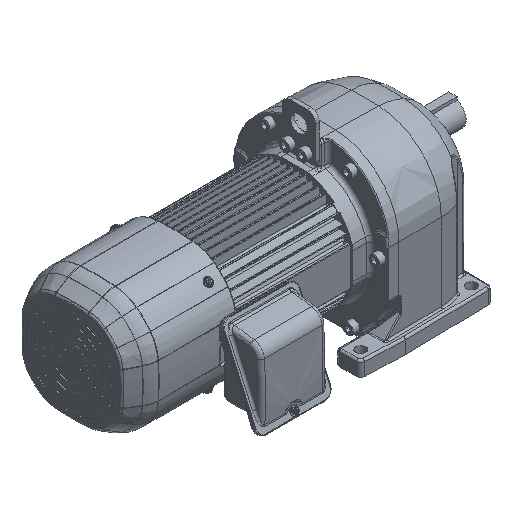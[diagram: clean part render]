
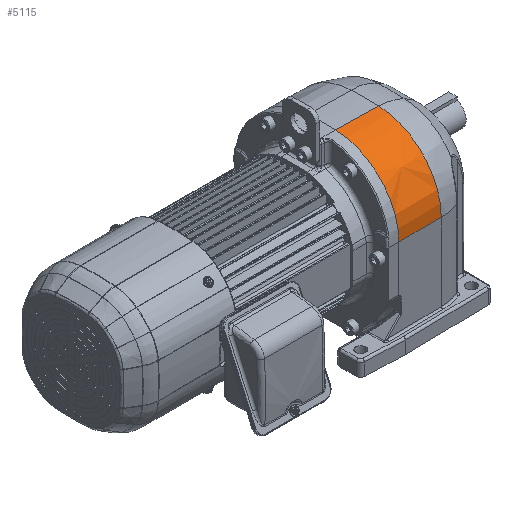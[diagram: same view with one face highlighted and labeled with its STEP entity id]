
A CAD part, isometric view. The second image highlights one B-rep face of the part: STEP entity #5115.
In plain terms, the highlighted free-form (B-spline) face has degree [3, 2] with [12, 3] control points.
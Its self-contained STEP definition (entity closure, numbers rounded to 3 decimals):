
#5115 = ADVANCED_FACE( '', ( #10670 ), #10671, .T. );
#10670 = FACE_OUTER_BOUND( '', #26407, .T. );
#10671 = ( BOUNDED_SURFACE(  )B_SPLINE_SURFACE( 3, 2, ( ( #26410, #26411, #26412 ), ( #26413, #26414, #26415 ), ( #26416, #26417, #26418 ), ( #26419, #26420, #26421 ), ( #26422, #26423, #26424 ), ( #26425, #26426, #26427 ), ( #26428, #26429, #26430 ), ( #26431, #26432, #26433 ), ( #26434, #26435, #26436 ), ( #26437, #26438, #26439 ), ( #26440, #26441, #26442 ), ( #26443, #26444, #26445 ) ), .UNSPECIFIED., .F., .F., .F. )B_SPLINE_SURFACE_WITH_KNOTS( ( 4, 1, 1, 1, 1, 1, 1, 1, 1, 4 ), ( 3, 3 ), ( 0., 0.008, 0.016, 0.031, 0.063, 0.125, 0.2, 0.25, 0.5, 1. ), ( 0., 1. ), .UNSPECIFIED. )GEOMETRIC_REPRESENTATION_ITEM(  )RATIONAL_B_SPLINE_SURFACE( ( ( 1., 0.719, 1. ), ( 1., 0.719, 1. ), ( 1., 0.719, 1. ), ( 1., 0.719, 1. ), ( 1., 0.719, 1. ), ( 1., 0.719, 1. ), ( 1., 0.719, 1. ), ( 1., 0.719, 1. ), ( 1., 0.719, 1. ), ( 1., 0.719, 1. ), ( 1., 0.719, 1. ), ( 1., 0.719, 1. ) ) )REPRESENTATION_ITEM( '' )SURFACE(  ) );
#26407 = EDGE_LOOP( '', ( #41568, #41569, #41570, #41571 ) );
#26410 = CARTESIAN_POINT( '', ( 86.602, -134.741, 102.232 ) );
#26411 = CARTESIAN_POINT( '', ( 86.602, -211.185, 99.683 ) );
#26412 = CARTESIAN_POINT( '', ( 86.602, -211.185, 23.196 ) );
#26413 = CARTESIAN_POINT( '', ( 86.465, -134.742, 102.235 ) );
#26414 = CARTESIAN_POINT( '', ( 86.465, -211.188, 99.685 ) );
#26415 = CARTESIAN_POINT( '', ( 86.47, -211.188, 23.196 ) );
#26416 = CARTESIAN_POINT( '', ( 86.191, -134.742, 102.24 ) );
#26417 = CARTESIAN_POINT( '', ( 86.191, -211.192, 99.69 ) );
#26418 = CARTESIAN_POINT( '', ( 86.189, -211.192, 23.196 ) );
#26419 = CARTESIAN_POINT( '', ( 85.645, -134.742, 102.249 ) );
#26420 = CARTESIAN_POINT( '', ( 85.645, -211.202, 99.699 ) );
#26421 = CARTESIAN_POINT( '', ( 85.646, -211.202, 23.196 ) );
#26422 = CARTESIAN_POINT( '', ( 84.687, -134.741, 102.266 ) );
#26423 = CARTESIAN_POINT( '', ( 84.687, -211.219, 99.715 ) );
#26424 = CARTESIAN_POINT( '', ( 84.687, -211.219, 23.197 ) );
#26425 = CARTESIAN_POINT( '', ( 82.773, -134.74, 102.3 ) );
#26426 = CARTESIAN_POINT( '', ( 82.773, -211.252, 99.748 ) );
#26427 = CARTESIAN_POINT( '', ( 82.774, -211.252, 23.2 ) );
#26428 = CARTESIAN_POINT( '', ( 79.819, -134.737, 102.351 ) );
#26429 = CARTESIAN_POINT( '', ( 79.819, -211.304, 99.798 ) );
#26430 = CARTESIAN_POINT( '', ( 79.819, -211.304, 23.204 ) );
#26431 = CARTESIAN_POINT( '', ( 76.537, -134.732, 102.409 ) );
#26432 = CARTESIAN_POINT( '', ( 76.537, -211.362, 99.854 ) );
#26433 = CARTESIAN_POINT( '', ( 76.537, -211.362, 23.212 ) );
#26434 = CARTESIAN_POINT( '', ( 69.974, -134.728, 102.524 ) );
#26435 = CARTESIAN_POINT( '', ( 69.974, -211.477, 99.966 ) );
#26436 = CARTESIAN_POINT( '', ( 69.974, -211.477, 23.22 ) );
#26437 = CARTESIAN_POINT( '', ( 55.971, -134.737, 102.769 ) );
#26438 = CARTESIAN_POINT( '', ( 55.971, -211.723, 100.203 ) );
#26439 = CARTESIAN_POINT( '', ( 55.971, -211.723, 23.219 ) );
#26440 = CARTESIAN_POINT( '', ( 42.843, -134.752, 102.999 ) );
#26441 = CARTESIAN_POINT( '', ( 42.843, -211.952, 100.425 ) );
#26442 = CARTESIAN_POINT( '', ( 42.843, -211.952, 23.211 ) );
#26443 = CARTESIAN_POINT( '', ( 34.092, -134.772, 103.152 ) );
#26444 = CARTESIAN_POINT( '', ( 34.092, -212.105, 100.573 ) );
#26445 = CARTESIAN_POINT( '', ( 34.092, -212.105, 23.196 ) );
#41568 = ORIENTED_EDGE( '', *, *, #47540, .T. );
#41569 = ORIENTED_EDGE( '', *, *, #47324, .F. );
#41570 = ORIENTED_EDGE( '', *, *, #47980, .F. );
#41571 = ORIENTED_EDGE( '', *, *, #47359, .F. );
#47324 = EDGE_CURVE( '', #50987, #54922, #55760, .T. );
#47359 = EDGE_CURVE( '', #50599, #50588, #55798, .T. );
#47540 = EDGE_CURVE( '', #50599, #54922, #56007, .T. );
#47980 = EDGE_CURVE( '', #50588, #50987, #56488, .T. );
#50588 = VERTEX_POINT( '', #61277 );
#50599 = VERTEX_POINT( '', #61352 );
#50987 = VERTEX_POINT( '', #61975 );
#54922 = VERTEX_POINT( '', #69488 );
#55760 = CIRCLE( '', #71113, 80. );
#55798 = CIRCLE( '', #71171, 79.08 );
#56007 = B_SPLINE_CURVE_WITH_KNOTS( '', 3, ( #71539, #71540, #71541, #71542, #71543, #71544, #71545, #71546, #71547, #71548, #71549, #71550 ), .UNSPECIFIED., .F., .F., ( 4, 1, 1, 1, 1, 1, 1, 1, 1, 4 ), ( 0., 0.008, 0.016, 0.031, 0.063, 0.125, 0.2, 0.25, 0.5, 1. ), .UNSPECIFIED. );
#56488 = B_SPLINE_CURVE_WITH_KNOTS( '', 3, ( #72714, #72715, #72716, #72717, #72718, #72719, #72720, #72721, #72722, #72723, #72724, #72725 ), .UNSPECIFIED., .F., .F., ( 4, 1, 1, 1, 1, 1, 1, 1, 1, 4 ), ( 0., 0.008, 0.016, 0.031, 0.063, 0.125, 0.2, 0.25, 0.5, 1. ), .UNSPECIFIED. );
#61277 = CARTESIAN_POINT( '', ( 86.602, -211.185, 23.196 ) );
#61352 = CARTESIAN_POINT( '', ( 86.602, -134.741, 102.232 ) );
#61975 = CARTESIAN_POINT( '', ( 34.092, -212.105, 23.196 ) );
#69488 = CARTESIAN_POINT( '', ( 34.092, -134.772, 103.152 ) );
#71113 = AXIS2_PLACEMENT_3D( '', #80233, #80234, #80235 );
#71171 = AXIS2_PLACEMENT_3D( '', #80269, #80270, #80271 );
#71539 = CARTESIAN_POINT( '', ( 86.602, -134.741, 102.232 ) );
#71540 = CARTESIAN_POINT( '', ( 86.465, -134.742, 102.235 ) );
#71541 = CARTESIAN_POINT( '', ( 86.191, -134.742, 102.24 ) );
#71542 = CARTESIAN_POINT( '', ( 85.645, -134.742, 102.249 ) );
#71543 = CARTESIAN_POINT( '', ( 84.687, -134.741, 102.266 ) );
#71544 = CARTESIAN_POINT( '', ( 82.773, -134.74, 102.3 ) );
#71545 = CARTESIAN_POINT( '', ( 79.819, -134.737, 102.351 ) );
#71546 = CARTESIAN_POINT( '', ( 76.537, -134.732, 102.409 ) );
#71547 = CARTESIAN_POINT( '', ( 69.974, -134.728, 102.524 ) );
#71548 = CARTESIAN_POINT( '', ( 55.971, -134.737, 102.769 ) );
#71549 = CARTESIAN_POINT( '', ( 42.843, -134.752, 102.999 ) );
#71550 = CARTESIAN_POINT( '', ( 34.092, -134.772, 103.152 ) );
#72714 = CARTESIAN_POINT( '', ( 86.602, -211.185, 23.196 ) );
#72715 = CARTESIAN_POINT( '', ( 86.47, -211.188, 23.196 ) );
#72716 = CARTESIAN_POINT( '', ( 86.189, -211.192, 23.196 ) );
#72717 = CARTESIAN_POINT( '', ( 85.646, -211.202, 23.196 ) );
#72718 = CARTESIAN_POINT( '', ( 84.687, -211.219, 23.197 ) );
#72719 = CARTESIAN_POINT( '', ( 82.774, -211.252, 23.2 ) );
#72720 = CARTESIAN_POINT( '', ( 79.819, -211.304, 23.204 ) );
#72721 = CARTESIAN_POINT( '', ( 76.537, -211.362, 23.212 ) );
#72722 = CARTESIAN_POINT( '', ( 69.974, -211.477, 23.22 ) );
#72723 = CARTESIAN_POINT( '', ( 55.971, -211.723, 23.219 ) );
#72724 = CARTESIAN_POINT( '', ( 42.843, -211.952, 23.211 ) );
#72725 = CARTESIAN_POINT( '', ( 34.092, -212.105, 23.196 ) );
#80233 = CARTESIAN_POINT( '', ( 34.092, -132.105, 23.196 ) );
#80234 = DIRECTION( '', ( -1., 0., 0. ) );
#80235 = DIRECTION( '', ( 0., 1., 0. ) );
#80269 = CARTESIAN_POINT( '', ( 86.602, -132.105, 23.196 ) );
#80270 = DIRECTION( '', ( 1., 0., 0. ) );
#80271 = DIRECTION( '', ( 0., -0.033, 0.999 ) );
